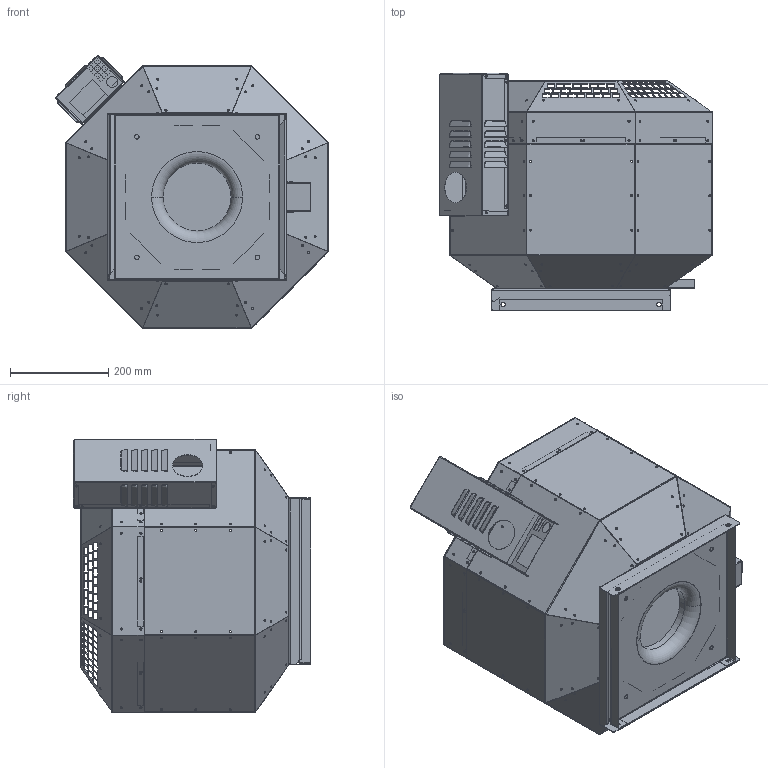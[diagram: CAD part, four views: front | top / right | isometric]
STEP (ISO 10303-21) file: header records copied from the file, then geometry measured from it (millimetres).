
FILE_DESCRIPTION (( 'STEP AP203' ), '1' );
FILE_NAME ('145034-01_DVNI225D230_step.step', '2018-08-29T12:05:44', ( '' ), ( '' ), 'SwSTEP 2.0', 'SolidWorks 2017', '' );
FILE_SCHEMA (( 'CONFIG_CONTROL_DESIGN' ));
Length unit declared in the file: millimetre
Products named in the file (1): 145034-01_DVNI225D230_step
Bounding box: 555.07 x 482 x 555.07 mm (x, y, z)
Surface area: 2519318.4 mm2 (no closed solid volume)
Topology: 0 solids, 37 shells, 1644 faces, 6814 edges, 4872 vertices
Faces by surface type: plane 1070, cylinder 492, bspline 80, torus 2
Entity records: 88547 total; most frequent: CARTESIAN_POINT 31995, DIRECTION 10791, ORIENTED_EDGE 10663, EDGE_CURVE 6814, LINE 4965, VECTOR 4965, VERTEX_POINT 4872, AXIS2_PLACEMENT_3D 2913
